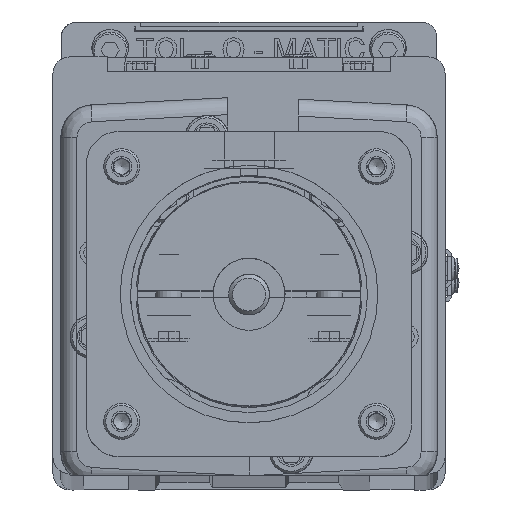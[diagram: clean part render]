
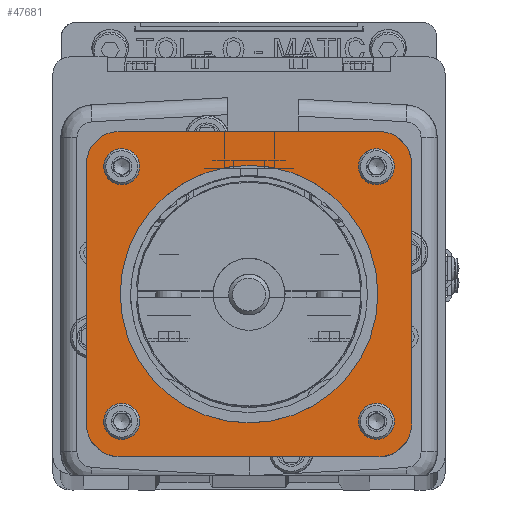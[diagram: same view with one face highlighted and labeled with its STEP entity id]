
A CAD part, top view. The second image highlights one B-rep face of the part: STEP entity #47681.
In plain terms, the highlighted planar face has unit normal (0, 0, 1).
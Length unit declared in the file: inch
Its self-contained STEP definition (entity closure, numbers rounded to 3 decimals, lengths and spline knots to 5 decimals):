
#232 = DIRECTION ( 'NONE',  ( -1., 0., 0. ) ) ;
#325 = LINE ( 'NONE', #577, #37481 ) ;
#577 = CARTESIAN_POINT ( 'NONE',  ( 0.9936, 1.2436, 3.3811 ) ) ;
#742 = DIRECTION ( 'NONE',  ( 0., -1., 0. ) ) ;
#960 = CARTESIAN_POINT ( 'NONE',  ( -0.97436, 0.97436, 3.3811 ) ) ;
#1039 = EDGE_CURVE ( 'NONE', #5228, #10921, #325, .T. ) ;
#1475 = DIRECTION ( 'NONE',  ( 0., 0., 1. ) ) ;
#1736 = LINE ( 'NONE', #43236, #10820 ) ;
#2290 = CARTESIAN_POINT ( 'NONE',  ( -1.2436, 0.9936, 3.3811 ) ) ;
#2717 = EDGE_CURVE ( 'NONE', #28462, #28462, #24870, .T. ) ;
#3011 = AXIS2_PLACEMENT_3D ( 'NONE', #4674, #24525, #39664 ) ;
#3475 = DIRECTION ( 'NONE',  ( 0., 0., 1. ) ) ;
#4144 = ORIENTED_EDGE ( 'NONE', *, *, #20397, .F. ) ;
#4674 = CARTESIAN_POINT ( 'NONE',  ( 0.97436, -0.97436, 3.3811 ) ) ;
#4732 = DIRECTION ( 'NONE',  ( 0., 0., 1. ) ) ;
#5117 = CARTESIAN_POINT ( 'NONE',  ( -1.2436, 0.9936, 3.3811 ) ) ;
#5202 = DIRECTION ( 'NONE',  ( 0., 0., 1. ) ) ;
#5228 = VERTEX_POINT ( 'NONE', #31103 ) ;
#5270 = CARTESIAN_POINT ( 'NONE',  ( -0.9936, 0.9936, 3.3811 ) ) ;
#5757 = ORIENTED_EDGE ( 'NONE', *, *, #40795, .F. ) ;
#6771 = CARTESIAN_POINT ( 'NONE',  ( 1.2436, -0.9936, 3.3811 ) ) ;
#7133 = DIRECTION ( 'NONE',  ( 1., 0., 0. ) ) ;
#8128 = LINE ( 'NONE', #5117, #8432 ) ;
#8393 = AXIS2_PLACEMENT_3D ( 'NONE', #13404, #1475, #17381 ) ;
#8432 = VECTOR ( 'NONE', #20279, 39.37008 ) ;
#8540 = DIRECTION ( 'NONE',  ( -1., 0., 0. ) ) ;
#8827 = FACE_OUTER_BOUND ( 'NONE', #40558, .T. ) ;
#8930 = CARTESIAN_POINT ( 'NONE',  ( 0., 0., 3.3811 ) ) ;
#9296 = AXIS2_PLACEMENT_3D ( 'NONE', #5270, #12491, #28094 ) ;
#10820 = VECTOR ( 'NONE', #39011, 39.37008 ) ;
#10869 = DIRECTION ( 'NONE',  ( 0., 0., 1. ) ) ;
#10921 = VERTEX_POINT ( 'NONE', #39546 ) ;
#11026 = VERTEX_POINT ( 'NONE', #2290 ) ;
#11114 = EDGE_CURVE ( 'NONE', #29673, #29673, #26375, .T. ) ;
#11899 = VECTOR ( 'NONE', #13515, 39.37008 ) ;
#12491 = DIRECTION ( 'NONE',  ( 0., 0., 1. ) ) ;
#12774 = ORIENTED_EDGE ( 'NONE', *, *, #35774, .T. ) ;
#13404 = CARTESIAN_POINT ( 'NONE',  ( 0.9936, -0.9936, 3.3811 ) ) ;
#13515 = DIRECTION ( 'NONE',  ( 0., 1., 0. ) ) ;
#13743 = CARTESIAN_POINT ( 'NONE',  ( 1.2436, -0.9936, 3.3811 ) ) ;
#14169 = CIRCLE ( 'NONE', #3011, 0.07875 ) ;
#14312 = VERTEX_POINT ( 'NONE', #6771 ) ;
#14665 = CIRCLE ( 'NONE', #38432, 0.25 ) ;
#14813 = CARTESIAN_POINT ( 'NONE',  ( -0.97436, 1.05311, 3.3811 ) ) ;
#14943 = CARTESIAN_POINT ( 'NONE',  ( 1.2436, 0.9936, 3.3811 ) ) ;
#15619 = VERTEX_POINT ( 'NONE', #18857 ) ;
#16526 = ORIENTED_EDGE ( 'NONE', *, *, #23079, .T. ) ;
#16686 = CARTESIAN_POINT ( 'NONE',  ( -0.9936, -1.2436, 3.3811 ) ) ;
#16776 = PLANE ( 'NONE',  #23631 ) ;
#16906 = EDGE_LOOP ( 'NONE', ( #17205 ) ) ;
#16930 = ORIENTED_EDGE ( 'NONE', *, *, #11114, .F. ) ;
#17127 = DIRECTION ( 'NONE',  ( 0., -1., 0. ) ) ;
#17205 = ORIENTED_EDGE ( 'NONE', *, *, #2717, .F. ) ;
#17269 = FACE_BOUND ( 'NONE', #25845, .T. ) ;
#17381 = DIRECTION ( 'NONE',  ( 0., 1., 0. ) ) ;
#17557 = CARTESIAN_POINT ( 'NONE',  ( 1.05311, 0.97436, 3.3811 ) ) ;
#17669 = VERTEX_POINT ( 'NONE', #18176 ) ;
#18081 = ORIENTED_EDGE ( 'NONE', *, *, #37455, .T. ) ;
#18128 = CIRCLE ( 'NONE', #45880, 0.07875 ) ;
#18176 = CARTESIAN_POINT ( 'NONE',  ( 0., -0.98525, 3.3811 ) ) ;
#18217 = EDGE_LOOP ( 'NONE', ( #5757 ) ) ;
#18328 = CARTESIAN_POINT ( 'NONE',  ( -0.9936, -0.9936, 3.3811 ) ) ;
#18857 = CARTESIAN_POINT ( 'NONE',  ( -1.05311, -0.97436, 3.3811 ) ) ;
#20068 = VERTEX_POINT ( 'NONE', #14943 ) ;
#20279 = DIRECTION ( 'NONE',  ( 0., -1., 0. ) ) ;
#20363 = EDGE_CURVE ( 'NONE', #35610, #14312, #38511, .T. ) ;
#20397 = EDGE_CURVE ( 'NONE', #17669, #17669, #40904, .T. ) ;
#20972 = FACE_BOUND ( 'NONE', #34782, .T. ) ;
#21263 = CIRCLE ( 'NONE', #40297, 0.25 ) ;
#22078 = VERTEX_POINT ( 'NONE', #29502 ) ;
#22893 = CARTESIAN_POINT ( 'NONE',  ( 0.9936, 0.9936, 3.3811 ) ) ;
#23079 = EDGE_CURVE ( 'NONE', #35205, #48353, #21263, .T. ) ;
#23405 = ORIENTED_EDGE ( 'NONE', *, *, #42670, .T. ) ;
#23631 = AXIS2_PLACEMENT_3D ( 'NONE', #35405, #24938, #47588 ) ;
#23880 = ORIENTED_EDGE ( 'NONE', *, *, #40089, .T. ) ;
#24063 = AXIS2_PLACEMENT_3D ( 'NONE', #29695, #10869, #7133 ) ;
#24525 = DIRECTION ( 'NONE',  ( 0., 0., 1. ) ) ;
#24569 = DIRECTION ( 'NONE',  ( 0., 1., 0. ) ) ;
#24870 = CIRCLE ( 'NONE', #24063, 0.07875 ) ;
#24938 = DIRECTION ( 'NONE',  ( 0., 0., -1. ) ) ;
#25845 = EDGE_LOOP ( 'NONE', ( #16930 ) ) ;
#26375 = CIRCLE ( 'NONE', #32719, 0.07875 ) ;
#27191 = DIRECTION ( 'NONE',  ( 0., -1., 0. ) ) ;
#27213 = EDGE_CURVE ( 'NONE', #20068, #5228, #14665, .T. ) ;
#27684 = FACE_BOUND ( 'NONE', #18217, .T. ) ;
#28094 = DIRECTION ( 'NONE',  ( 0., -1., 0. ) ) ;
#28462 = VERTEX_POINT ( 'NONE', #17557 ) ;
#29502 = CARTESIAN_POINT ( 'NONE',  ( 0.97436, -1.05311, 3.3811 ) ) ;
#29673 = VERTEX_POINT ( 'NONE', #14813 ) ;
#29695 = CARTESIAN_POINT ( 'NONE',  ( 0.97436, 0.97436, 3.3811 ) ) ;
#29716 = DIRECTION ( 'NONE',  ( 0., 0., 1. ) ) ;
#30178 = ORIENTED_EDGE ( 'NONE', *, *, #27213, .T. ) ;
#30781 = ORIENTED_EDGE ( 'NONE', *, *, #48697, .F. ) ;
#30884 = CARTESIAN_POINT ( 'NONE',  ( -1.2436, -0.9936, 3.3811 ) ) ;
#31103 = CARTESIAN_POINT ( 'NONE',  ( 0.9936, 1.2436, 3.3811 ) ) ;
#32719 = AXIS2_PLACEMENT_3D ( 'NONE', #960, #35017, #24569 ) ;
#32791 = EDGE_LOOP ( 'NONE', ( #4144 ) ) ;
#34782 = EDGE_LOOP ( 'NONE', ( #30781 ) ) ;
#35017 = DIRECTION ( 'NONE',  ( 0., 0., 1. ) ) ;
#35205 = VERTEX_POINT ( 'NONE', #30884 ) ;
#35405 = CARTESIAN_POINT ( 'NONE',  ( -1.875, -1.97326, 3.3811 ) ) ;
#35410 = ORIENTED_EDGE ( 'NONE', *, *, #1039, .T. ) ;
#35610 = VERTEX_POINT ( 'NONE', #49014 ) ;
#35774 = EDGE_CURVE ( 'NONE', #48353, #35610, #1736, .T. ) ;
#37455 = EDGE_CURVE ( 'NONE', #11026, #35205, #8128, .T. ) ;
#37481 = VECTOR ( 'NONE', #8540, 39.37008 ) ;
#37511 = CARTESIAN_POINT ( 'NONE',  ( -0.97436, -0.97436, 3.3811 ) ) ;
#37878 = CIRCLE ( 'NONE', #9296, 0.25 ) ;
#38432 = AXIS2_PLACEMENT_3D ( 'NONE', #22893, #4732, #742 ) ;
#38511 = CIRCLE ( 'NONE', #8393, 0.25 ) ;
#39011 = DIRECTION ( 'NONE',  ( 1., 0., 0. ) ) ;
#39103 = FACE_BOUND ( 'NONE', #32791, .T. ) ;
#39360 = FACE_BOUND ( 'NONE', #16906, .T. ) ;
#39546 = CARTESIAN_POINT ( 'NONE',  ( -0.9936, 1.2436, 3.3811 ) ) ;
#39664 = DIRECTION ( 'NONE',  ( 0., -1., 0. ) ) ;
#40089 = EDGE_CURVE ( 'NONE', #10921, #11026, #37878, .T. ) ;
#40297 = AXIS2_PLACEMENT_3D ( 'NONE', #18328, #29716, #27191 ) ;
#40558 = EDGE_LOOP ( 'NONE', ( #43067, #23405, #30178, #35410, #23880, #18081, #16526, #12774 ) ) ;
#40795 = EDGE_CURVE ( 'NONE', #22078, #22078, #14169, .T. ) ;
#40904 = CIRCLE ( 'NONE', #46473, 0.98525 ) ;
#42670 = EDGE_CURVE ( 'NONE', #14312, #20068, #47781, .T. ) ;
#43067 = ORIENTED_EDGE ( 'NONE', *, *, #20363, .T. ) ;
#43236 = CARTESIAN_POINT ( 'NONE',  ( -0.9936, -1.2436, 3.3811 ) ) ;
#45880 = AXIS2_PLACEMENT_3D ( 'NONE', #37511, #3475, #232 ) ;
#46473 = AXIS2_PLACEMENT_3D ( 'NONE', #8930, #5202, #17127 ) ;
#47588 = DIRECTION ( 'NONE',  ( 0., 1., 0. ) ) ;
#47681 = ADVANCED_FACE ( 'NONE', ( #20972, #17269, #39360, #27684, #39103, #8827 ), #16776, .F. ) ;
#47781 = LINE ( 'NONE', #13743, #11899 ) ;
#48353 = VERTEX_POINT ( 'NONE', #16686 ) ;
#48697 = EDGE_CURVE ( 'NONE', #15619, #15619, #18128, .T. ) ;
#49014 = CARTESIAN_POINT ( 'NONE',  ( 0.9936, -1.2436, 3.3811 ) ) ;
